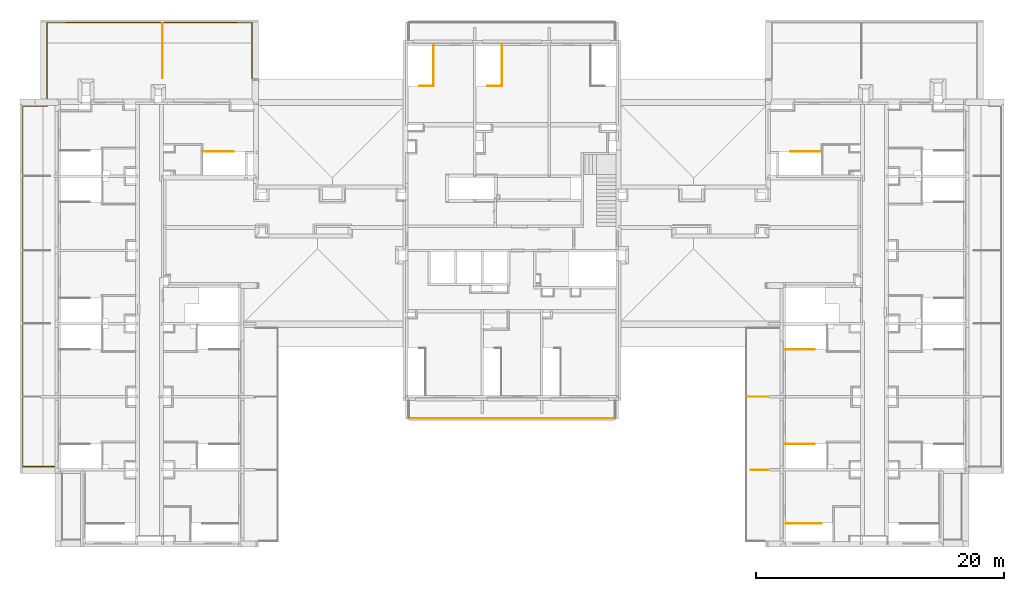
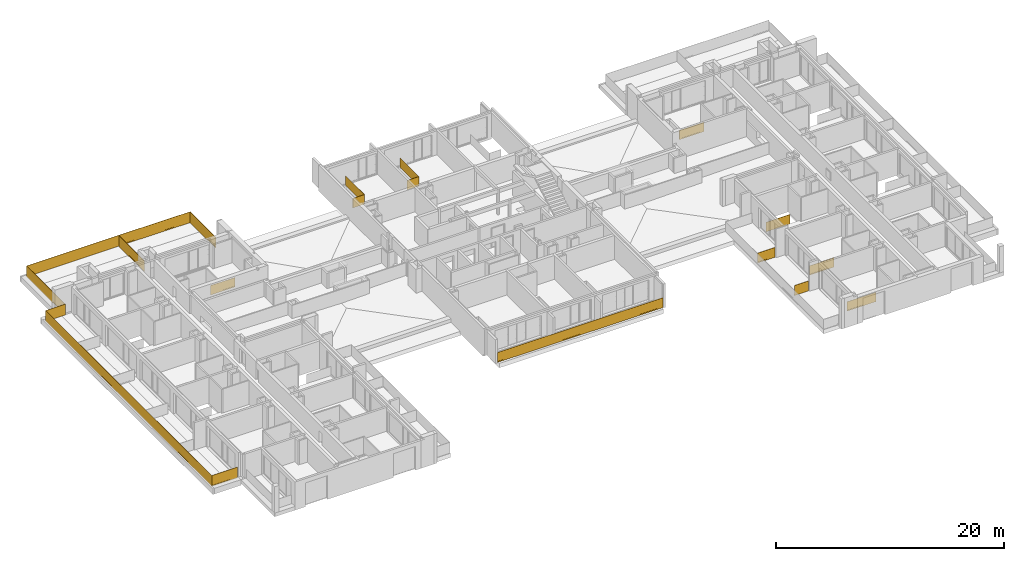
# One storey, part 9 of 30: 12 railings.
"""IFC2X3 building model written with IfcOpenShell, lengths in millimetres."""

from ifc_helpers import new_model, entity, si_unit, converted_unit, derived_unit, money_unit, direction, frame, origin_with_axes, place, context, subcontext, project, spatial, faceted_brep, material, material_list, type_object, element, save


model = new_model("IFC2X3")

# Units and contexts
model_context = context("Model", 3, precision=0.01, world=origin_with_axes(), true_north=direction((0.34421633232, 0.938890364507)))
body_context = subcontext(model_context, "Body", "Model", "MODEL_VIEW")
ifc_project = project(units=[si_unit("LENGTHUNIT", "METRE", prefix="MILLI"), si_unit("AREAUNIT", "SQUARE_METRE"), si_unit("VOLUMEUNIT", "CUBIC_METRE"), converted_unit("PLANEANGLEUNIT", "DEGREE", entity("IfcPlaneAngleMeasure", 0.0174532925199), si_unit("PLANEANGLEUNIT", "RADIAN"), dimensions=[0, 0, 0, 0, 0, 0, 0]), si_unit("SOLIDANGLEUNIT", "STERADIAN"), money_unit("USD"), converted_unit("TIMEUNIT", "Year", entity("IfcTimeMeasure", 31556926.0), si_unit("TIMEUNIT", "SECOND"), dimensions=[0, 0, 1, 0, 0, 0, 0]), si_unit("MASSUNIT", "GRAM", prefix="KILO"), si_unit("THERMODYNAMICTEMPERATUREUNIT", "DEGREE_CELSIUS"), si_unit("LUMINOUSINTENSITYUNIT", "LUMEN"), si_unit("ENERGYUNIT", "JOULE", prefix="MEGA"), derived_unit("THERMALCONDUCTANCEUNIT", [(si_unit("POWERUNIT", "WATT"), 1), (si_unit("LENGTHUNIT", "METRE"), -1), (si_unit("THERMODYNAMICTEMPERATUREUNIT", "KELVIN"), -1)]), derived_unit("SPECIFICHEATCAPACITYUNIT", [(si_unit("ENERGYUNIT", "JOULE"), 1), (si_unit("MASSUNIT", "GRAM", prefix="KILO"), -1), (si_unit("THERMODYNAMICTEMPERATUREUNIT", "KELVIN"), -1)]), derived_unit("MASSDENSITYUNIT", [(si_unit("MASSUNIT", "GRAM", prefix="KILO"), 1), (si_unit("VOLUMEUNIT", "CUBIC_METRE"), -1)])], contexts=[model_context])

# Site, building, storey
site_placement = place(None, origin_with_axes())
site = spatial("IfcSite", under=ifc_project, at=site_placement, Name="USTRONIE MORSKIE", CompositionType="ELEMENT")
building_placement = place(site_placement, origin_with_axes())
building = spatial("IfcBuilding", under=site, at=building_placement, Name="Budynek", CompositionType="ELEMENT")
storey_placement = place(building_placement, frame((0.0, 0.0, 16000.0), z_axis=(0.0, 0.0, 1.0), x_axis=(1.0, 0.0, 0.0)))
storey = spatial("IfcBuildingStorey", under=building, at=storey_placement, Name="ANTRESOLA - KOND. TECHNICZNA", CompositionType="ELEMENT", Elevation=16000.0)

# Railings
ifc_material_1 = material(Name="Szkło struktualne")
ifc_material_2 = material(Name="Profile aluminiowe")
ifc_material_list_1 = material_list([ifc_material_1, ifc_material_2])
railing_type = type_object("IfcRailingType", Name="Typ balustrady", PredefinedType="NOTDEFINED")
railing_1_placement = place(storey_placement, frame((408517.884527, 721001.199036, 200.0), z_axis=(0.0, 0.0, 1.0), x_axis=(1.0, 0.0, 0.0)))
element("IfcRailing", 1, at=railing_1_placement, inside=storey, type_object=railing_type, material=ifc_material_list_1, Name="BL1", PredefinedType="NOTDEFINED", context=body_context, shape_type="Brep", body=[
    faceted_brep([(-1750.0, -9.99999999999, -100.0), (0.0, -9.99999999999, -100.0), (0.0, -9.99999999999, 950.0), (-1750.0, -9.99999999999, 950.0), (0.0, 9.99999999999, -100.0), (-1750.0, 9.99999999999, -100.0), (0.0, 9.99999999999, 950.0), (-1750.0, 9.99999999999, 950.0)], [[[0, 1, 2, 3]], [[4, 1, 0, 5]], [[6, 2, 1, 4]], [[3, 2, 6, 7]], [[0, 3, 7, 5]], [[6, 4, 5, 7]]]),
    faceted_brep([(-1750.0, 15.0, -5.0), (0.0, 15.0, -5.0), (0.0, 15.0, -105.0), (-1750.0, 15.0, -105.0), (-1750.0, 9.99999999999, -5.0), (0.0, 9.99999999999, -5.0), (0.0, 9.99999999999, -100.0), (0.0, -9.99999999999, -100.0), (0.0, -9.99999999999, -5.0), (0.0, -15.0, -5.0), (0.0, -15.0, -105.0), (-1750.0, -15.0, -105.0), (-1750.0, -15.0, -5.0), (-1750.0, -9.99999999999, -5.0), (-1750.0, -9.99999999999, -100.0), (-1750.0, 9.99999999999, -100.0)], [[[0, 1, 2, 3]], [[1, 0, 4, 5]], [[6, 7, 8, 9, 10, 2, 1, 5]], [[10, 11, 3, 2]], [[11, 12, 13, 14, 15, 4, 0, 3]], [[15, 6, 5, 4]], [[7, 6, 15, 14]], [[8, 7, 14, 13]], [[9, 8, 13, 12]], [[11, 10, 9, 12]]]),
])
railing_2_placement = place(storey_placement, frame((379017.920919, 721142.989714, 200.0), z_axis=(0.0, 0.0, 1.0), x_axis=(1.0, 0.0, 0.0)))
element("IfcRailing", 2, at=railing_2_placement, inside=storey, type_object=railing_type, material=ifc_material_list_1, Name="BL1", PredefinedType="NOTDEFINED", context=body_context, shape_type="Brep", body=[
    faceted_brep([(17150.0, -1881.79067758, -100.0), (450.0, -1881.79067758, -100.0), (450.0, -1881.79067758, 950.0), (17150.0, -1881.79067758, 950.0), (450.0, -1901.79067758, -100.0), (17150.0, -1901.79067758, -100.0), (450.0, -1901.79067758, 950.0), (17150.0, -1901.79067758, 950.0)], [[[0, 1, 2, 3]], [[4, 1, 0, 5]], [[6, 2, 1, 4]], [[3, 2, 6, 7]], [[0, 3, 7, 5]], [[6, 4, 5, 7]]]),
    faceted_brep([(17150.0, -1906.79067758, -5.0), (450.0, -1906.79067758, -5.0), (450.0, -1906.79067758, -105.0), (17150.0, -1906.79067758, -105.0), (17150.0, -1901.79067758, -5.0), (450.0, -1901.79067758, -5.0), (450.0, -1901.79067758, -100.0), (450.0, -1881.79067758, -100.0), (450.0, -1881.79067758, -5.0), (450.0, -1876.79067758, -5.0), (450.0, -1876.79067758, -105.0), (17150.0, -1876.79067758, -105.0), (17150.0, -1876.79067758, -5.0), (17150.0, -1881.79067758, -5.0), (17150.0, -1881.79067758, -100.0), (17150.0, -1901.79067758, -100.0)], [[[0, 1, 2, 3]], [[1, 0, 4, 5]], [[6, 7, 8, 9, 10, 2, 1, 5]], [[10, 11, 3, 2]], [[11, 12, 13, 14, 15, 4, 0, 3]], [[15, 6, 5, 4]], [[7, 6, 15, 14]], [[8, 7, 14, 13]], [[9, 8, 13, 12]], [[11, 10, 9, 12]]]),
])
railing_3_placement = place(storey_placement, frame((409817.920919, 717201.199037, 100.0), z_axis=(0.0, 0.0, 1.0), x_axis=(1.0, 0.0, 0.0)))
element("IfcRailing", 3, at=railing_3_placement, inside=storey, type_object=railing_type, material=ifc_material_list_1, Name="BL1", PredefinedType="NOTDEFINED", context=body_context, shape_type="Brep", body=[
    faceted_brep([(2440.0, -9.99999999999, -50.0), (0.0, -9.99999999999, -50.0), (0.0, -9.99999999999, 950.0), (2440.0, -9.99999999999, 950.0), (0.0, -30.0, -50.0), (2440.0, -30.0, -50.0), (0.0, -30.0, 950.0), (2440.0, -30.0, 950.0)], [[[0, 1, 2, 3]], [[4, 1, 0, 5]], [[6, 2, 1, 4]], [[3, 2, 6, 7]], [[0, 3, 7, 5]], [[6, 4, 5, 7]]]),
    faceted_brep([(2440.0, -35.0, 45.0), (0.0, -35.0, 45.0), (0.0, -35.0, -55.0), (2440.0, -35.0, -55.0), (2440.0, -30.0, 45.0), (0.0, -30.0, 45.0), (0.0, -30.0, -50.0), (0.0, -9.99999999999, -50.0), (0.0, -9.99999999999, 45.0), (0.0, -5.0, 45.0), (0.0, -5.0, -55.0), (2440.0, -5.0, -55.0), (2440.0, -5.0, 45.0), (2440.0, -9.99999999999, 45.0), (2440.0, -9.99999999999, -50.0), (2440.0, -30.0, -50.0)], [[[0, 1, 2, 3]], [[1, 0, 4, 5]], [[6, 7, 8, 9, 10, 2, 1, 5]], [[10, 11, 3, 2]], [[11, 12, 13, 14, 15, 4, 0, 3]], [[15, 6, 5, 4]], [[7, 6, 15, 14]], [[8, 7, 14, 13]], [[9, 8, 13, 12]], [[11, 10, 9, 12]]]),
])
railing_4_placement = place(storey_placement, frame((409887.920919, 710801.199065, 100.0), z_axis=(0.0, 0.0, 1.0), x_axis=(0.0, 1.0, 0.0)))
element("IfcRailing", 4, at=railing_4_placement, inside=storey, type_object=railing_type, material=ifc_material_list_1, Name="BL1", PredefinedType="NOTDEFINED", context=body_context, shape_type="Brep", body=[
    faceted_brep([(-9.99999999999, -2930.0, -50.0), (-10.0000000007, 0.0, -50.0), (-10.0000000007, 0.0, 950.0), (-9.99999999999, -2930.0, 950.0), (-30.0000000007, 0.0, -50.0), (-30.0, -2930.0, -50.0), (-30.0000000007, 0.0, 950.0), (-30.0, -2930.0, 950.0)], [[[0, 1, 2, 3]], [[4, 1, 0, 5]], [[6, 2, 1, 4]], [[3, 2, 6, 7]], [[0, 3, 7, 5]], [[6, 4, 5, 7]]]),
    faceted_brep([(-35.0, -2930.0, 45.0), (-35.0000000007, 0.0, 45.0), (-35.0000000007, 0.0, -55.0), (-35.0, -2930.0, -55.0), (-30.0, -2930.0, 45.0), (-30.0000000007, 0.0, 45.0), (-30.0000000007, 0.0, -50.0), (-10.0000000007, 0.0, -50.0), (-10.0000000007, 0.0, 45.0), (-5.00000000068, 0.0, 45.0), (-5.00000000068, 0.0, -55.0), (-5.0, -2930.0, -55.0), (-5.0, -2930.0, 45.0), (-9.99999999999, -2930.0, 45.0), (-9.99999999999, -2930.0, -50.0), (-30.0, -2930.0, -50.0)], [[[0, 1, 2, 3]], [[1, 0, 4, 5]], [[6, 7, 8, 9, 10, 2, 1, 5]], [[10, 11, 3, 2]], [[11, 12, 13, 14, 15, 4, 0, 3]], [[15, 6, 5, 4]], [[7, 6, 15, 14]], [[8, 7, 14, 13]], [[9, 8, 13, 12]], [[11, 10, 9, 12]]]),
])
ifc_material_list_2 = material_list([ifc_material_1, ifc_material_2, ifc_material_1, ifc_material_2, ifc_material_1, ifc_material_2, ifc_material_1, ifc_material_2, ifc_material_1, ifc_material_2, ifc_material_1, ifc_material_2, ifc_material_1, ifc_material_2])
railing_5_placement = place(storey_placement, frame((357617.920919, 709026.409919, 200.0), z_axis=(0.0, 0.0, 1.0), x_axis=(1.0, 0.0, 0.0)))
element("IfcRailing", 5, at=railing_5_placement, inside=storey, type_object=railing_type, material=ifc_material_list_2, Name="BL1", PredefinedType="NOTDEFINED", context=body_context, shape_type="Brep", body=[
    faceted_brep([(-6679.99996482, 6324.78911709, -100.00000039), (-6679.99996482, 6324.78911709, 1049.99999998), (-9289.999818, 6324.78911709, 1049.99999998), (-9289.999818, 6324.78911709, -100.00000039), (-6679.99996482, 6344.78911664, 1049.99999998), (-6679.99996482, 6344.78911664, -100.00000039), (-9269.99981845, 6344.78911664, 1049.99999998), (-9269.99981845, 6344.78911664, -100.00000039)], [[[0, 1, 2, 3]], [[4, 1, 0, 5]], [[2, 1, 4, 6]], [[3, 2, 6, 7]], [[5, 0, 3, 7]], [[6, 4, 5, 7]]]),
    faceted_brep([(-9279.99981809, 6349.78911687, -5.0), (-6679.99996521, 6349.78911687, -5.0), (-6679.99996521, 6349.78911687, -105.0), (-9279.99981809, 6349.78911687, -105.0), (-9279.99981809, 6344.78911687, -5.0), (-6679.99996521, 6344.78911687, -5.0), (-6679.99996521, 6324.78911687, -100.0), (-6679.99996521, 6324.78911687, -5.0), (-6679.99996521, 6319.78911687, -5.0), (-6679.99996521, 6319.78911687, -105.0), (-6679.99996521, 6344.78911687, -100.0), (-9279.99981809, 6319.78911687, -105.0), (-9279.99981809, 6319.78911687, -5.0), (-9279.99981809, 6324.78911687, -5.0), (-9279.99981809, 6324.78911687, -100.0), (-9279.99981809, 6344.78911687, -100.0)], [[[0, 1, 2, 3]], [[1, 0, 4, 5]], [[6, 7, 8, 9, 2, 1, 5, 10]], [[9, 11, 3, 2]], [[11, 12, 13, 14, 15, 4, 0, 3]], [[15, 10, 5, 4]], [[7, 6, 14, 13]], [[8, 7, 13, 12]], [[11, 9, 8, 12]], [[6, 10, 15, 14]]]),
    faceted_brep([(-9289.99981786, 6324.7891167, -100.00000039), (-9289.99981786, 6324.7891167, 1049.99999998), (-9289.99981786, 35424.7891163, 1049.99999998), (-9289.99981786, 35424.7891163, -100.00000039), (-9269.99981831, 6344.78911625, 1049.99999998), (-9269.99981831, 6344.78911625, -100.00000039), (-9269.99981831, 35404.7891168, 1049.99999998), (-9269.99981831, 35404.7891168, -100.00000039)], [[[0, 1, 2, 3]], [[4, 1, 0, 5]], [[2, 1, 4, 6]], [[3, 2, 6, 7]], [[5, 0, 3, 7]], [[6, 4, 5, 7]]]),
    faceted_brep([(-9264.99981809, 35414.7891169, -5.0), (-9264.99981809, 6334.78911687, -5.0), (-9264.99981809, 6334.78911687, -105.0), (-9264.99981809, 35414.7891169, -105.0), (-9269.99981809, 35414.7891169, -5.0), (-9269.99981809, 6334.78911687, -5.0), (-9269.99981809, 6334.78911687, -100.0), (-9289.99981809, 6334.78911687, -100.0), (-9289.99981809, 6334.78911687, -5.0), (-9294.99981809, 6334.78911687, -5.0), (-9294.99981809, 6334.78911687, -105.0), (-9294.99981809, 35414.7891169, -105.0), (-9294.99981809, 35414.7891169, -5.0), (-9289.99981809, 35414.7891169, -5.0), (-9289.99981809, 35414.7891169, -100.0), (-9269.99981809, 35414.7891169, -100.0)], [[[0, 1, 2, 3]], [[1, 0, 4, 5]], [[6, 7, 8, 9, 10, 2, 1, 5]], [[10, 11, 3, 2]], [[11, 12, 13, 14, 15, 4, 0, 3]], [[15, 6, 5, 4]], [[7, 6, 15, 14]], [[8, 7, 14, 13]], [[9, 8, 13, 12]], [[11, 10, 9, 12]]]),
    faceted_brep([(-9289.99981825, 35424.7891166, -100.00000039), (-9289.99981825, 35424.7891166, 1049.99999998), (-7320.00000012, 35424.7891166, 1049.99999998), (-7320.00000012, 35424.7891166, -100.00000039), (-9269.9998187, 35404.7891171, 1049.99999998), (-9269.9998187, 35404.7891171, -100.00000039), (-7300.00000057, 35404.7891171, 1049.99999998), (-7300.00000057, 35404.7891171, -100.00000039)], [[[0, 1, 2, 3]], [[4, 1, 0, 5]], [[2, 1, 4, 6]], [[3, 2, 6, 7]], [[5, 0, 3, 7]], [[6, 4, 5, 7]]]),
    faceted_brep([(-7310.0, 35399.7891169, -5.0), (-9279.99981809, 35399.7891169, -5.0), (-9279.99981809, 35399.7891169, -105.0), (-7310.0, 35399.7891169, -105.0), (-7310.0, 35404.7891169, -5.0), (-9279.99981809, 35404.7891169, -5.0), (-9279.99981809, 35404.7891169, -100.0), (-9279.99981809, 35424.7891169, -100.0), (-9279.99981809, 35424.7891169, -5.0), (-9279.99981809, 35429.7891169, -5.0), (-9279.99981809, 35429.7891169, -105.0), (-7310.0, 35429.7891169, -105.0), (-7310.0, 35429.7891169, -5.0), (-7310.0, 35424.7891169, -5.0), (-7310.0, 35424.7891169, -100.0), (-7310.0, 35404.7891169, -100.0)], [[[0, 1, 2, 3]], [[1, 0, 4, 5]], [[6, 7, 8, 9, 10, 2, 1, 5]], [[10, 11, 3, 2]], [[11, 12, 13, 14, 15, 4, 0, 3]], [[15, 6, 5, 4]], [[7, 6, 15, 14]], [[8, 7, 14, 13]], [[9, 8, 13, 12]], [[11, 10, 9, 12]]]),
    faceted_brep([(-7319.99999978, 35424.7891163, -100.00000039), (-7319.99999978, 35424.7891163, 1049.99999998), (-7319.99999978, 42164.8780579, 1049.99999998), (-7319.99999978, 42164.8780579, -100.00000039), (-7300.00000022, 35404.7891167, 1049.99999998), (-7300.00000022, 35404.7891167, -100.00000039), (-7300.00000022, 42144.9212025, 1049.99999998), (-7300.00000022, 42144.9212025, -100.00000039)], [[[0, 1, 2, 3]], [[4, 1, 0, 5]], [[2, 1, 4, 6]], [[3, 2, 6, 7]], [[5, 0, 3, 7]], [[6, 4, 5, 7]]]),
    faceted_brep([(-7295.0, 42154.8996298, -5.0), (-7295.0, 35414.7891169, -5.0), (-7295.0, 35414.7891169, -105.0), (-7295.0, 42154.8996298, -105.0), (-7300.0, 42154.8996298, -5.0), (-7300.0, 35414.7891169, -5.0), (-7300.0, 35414.7891169, -100.0), (-7320.0, 35414.7891169, -100.0), (-7320.0, 35414.7891169, -5.0), (-7325.0, 35414.7891169, -5.0), (-7325.0, 35414.7891169, -105.0), (-7325.0, 42154.8996298, -105.0), (-7325.0, 42154.8996298, -5.0), (-7320.0, 42154.8996298, -5.0), (-7320.0, 42154.8996298, -100.0), (-7300.0, 42154.8996298, -100.0)], [[[0, 1, 2, 3]], [[1, 0, 4, 5]], [[6, 7, 8, 9, 10, 2, 1, 5]], [[10, 11, 3, 2]], [[11, 12, 13, 14, 15, 4, 0, 3]], [[15, 6, 5, 4]], [[7, 6, 15, 14]], [[8, 7, 14, 13]], [[9, 8, 13, 12]], [[11, 10, 9, 12]]]),
    faceted_brep([(-7320.00000017, 42164.8780575, -100.00000039), (-7320.00000017, 42164.8780575, 1049.99999998), (1899.98885018, 42184.7889993, 1049.99999998), (1899.98885018, 42184.7889993, -100.00000039), (-7300.00000061, 42144.9212021, 1049.99999998), (-7300.00000061, 42144.9212021, -100.00000039), (1899.98327529, 42164.7889411, 1049.99999998), (1899.98327529, 42164.7889411, -100.00000039)], [[[0, 1, 2, 3]], [[4, 1, 0, 5]], [[2, 1, 4, 6]], [[3, 2, 6, 7]], [[5, 0, 3, 7]], [[6, 4, 5, 7]]]),
    faceted_brep([(1900.01845584, 42159.7890052, -5.0), (-7309.96760696, 42139.8996648, -5.0), (-7309.96760696, 42139.8996648, -105.0), (1900.01845584, 42159.7890052, -105.0), (1900.00765816, 42164.7889935, -5.0), (-7309.97840464, 42144.8996531, -5.0), (-7309.97840464, 42144.8996531, -100.0), (-7310.02159536, 42164.8996065, -100.0), (-7310.02159536, 42164.8996065, -5.0), (-7310.03239304, 42169.8995948, -5.0), (-7310.03239304, 42169.8995948, -105.0), (1899.95366977, 42189.7889352, -105.0), (1899.95366977, 42189.7889352, -5.0), (1899.96446745, 42184.7889469, -5.0), (1899.96446745, 42184.7889469, -100.0), (1900.00765816, 42164.7889935, -100.0)], [[[0, 1, 2, 3]], [[1, 0, 4, 5]], [[6, 7, 8, 9, 10, 2, 1, 5]], [[10, 11, 3, 2]], [[11, 12, 13, 14, 15, 4, 0, 3]], [[15, 6, 5, 4]], [[7, 6, 15, 14]], [[8, 7, 14, 13]], [[9, 8, 13, 12]], [[11, 10, 9, 12]]]),
    faceted_brep([(1899.98884986, 42184.7889993, -100.00000039), (1899.98884986, 42184.7889993, 1049.99999998), (9220.00000008, 42164.9003027, 1049.99999998), (9220.00000008, 42164.9003027, -100.00000039), (1899.98327497, 42164.7889411, 1049.99999998), (1899.98327497, 42164.7889411, -100.00000039), (9200.00000053, 42144.95457, 1049.99999998), (9200.00000053, 42144.95457, -100.00000039)], [[[0, 1, 2, 3]], [[4, 1, 0, 5]], [[2, 1, 4, 6]], [[3, 2, 6, 7]], [[5, 0, 3, 7]], [[6, 4, 5, 7]]]),
    faceted_brep([(9209.95924469, 42139.9274917, -5.0), (1899.94530749, 42159.7890255, -5.0), (1899.94530749, 42159.7890255, -105.0), (9209.95924469, 42139.9274917, -105.0), (9209.97282979, 42144.9274733, -5.0), (1899.9588926, 42164.7890071, -5.0), (1899.9588926, 42164.7890071, -100.0), (1900.01323302, 42184.7889333, -100.0), (1900.01323302, 42184.7889333, -5.0), (1900.02681812, 42189.7889148, -5.0), (1900.02681812, 42189.7889148, -105.0), (9210.04075531, 42169.927381, -105.0), (9210.04075531, 42169.927381, -5.0), (9210.02717021, 42164.9273994, -5.0), (9210.02717021, 42164.9273994, -100.0), (9209.97282979, 42144.9274733, -100.0)], [[[0, 1, 2, 3]], [[1, 0, 4, 5]], [[6, 7, 8, 9, 10, 2, 1, 5]], [[10, 11, 3, 2]], [[11, 12, 13, 14, 15, 4, 0, 3]], [[15, 6, 5, 4]], [[7, 6, 15, 14]], [[8, 7, 14, 13]], [[9, 8, 13, 12]], [[11, 10, 9, 12]]]),
    faceted_brep([(9219.99999978, 42164.9003031, -100.00000039), (9219.99999978, 42164.9003031, 1049.99999998), (9219.99999978, 37624.7891165, 1049.99999998), (9219.99999978, 37624.7891165, -100.00000039), (9200.00000022, 42144.9545704, 1049.99999998), (9200.00000022, 42144.9545704, -100.00000039), (9200.00000022, 37624.7891165, 1049.99999998), (9200.00000022, 37624.7891165, -100.00000039)], [[[0, 1, 2, 3]], [[4, 1, 0, 5]], [[2, 1, 4, 6]], [[3, 2, 6, 7]], [[5, 0, 3, 7]], [[6, 4, 5, 7]]]),
    faceted_brep([(9195.0, 37624.7891169, -5.0), (9195.0, 42154.9274364, -5.0), (9195.0, 42154.9274364, -105.0), (9195.0, 37624.7891169, -105.0), (9200.0, 37624.7891169, -5.0), (9200.0, 42154.9274364, -5.0), (9200.0, 42154.9274364, -100.0), (9220.0, 42154.9274364, -100.0), (9220.0, 42154.9274364, -5.0), (9225.0, 42154.9274364, -5.0), (9225.0, 42154.9274364, -105.0), (9225.0, 37624.7891169, -105.0), (9225.0, 37624.7891169, -5.0), (9220.0, 37624.7891169, -5.0), (9220.0, 37624.7891169, -100.0), (9200.0, 37624.7891169, -100.0)], [[[0, 1, 2, 3]], [[1, 0, 4, 5]], [[6, 7, 8, 9, 10, 2, 1, 5]], [[10, 11, 3, 2]], [[11, 12, 13, 14, 15, 4, 0, 3]], [[15, 6, 5, 4]], [[7, 6, 15, 14]], [[8, 7, 14, 13]], [[9, 8, 13, 12]], [[11, 10, 9, 12]]]),
])
railing_6_placement = place(storey_placement, frame((409817.920919, 724801.243277, 100.0), z_axis=(0.0, 0.0, 1.0), x_axis=(1.0, 0.0, 0.0)))
element("IfcRailing", 6, at=railing_6_placement, inside=storey, type_object=railing_type, material=ifc_material_list_1, Name="BL1", PredefinedType="NOTDEFINED", context=body_context, shape_type="Brep", body=[
    faceted_brep([(2440.0, 30.0, -50.0), (0.0, 30.0, -50.0), (0.0, 30.0, 950.0), (2440.0, 30.0, 950.0), (0.0, 9.99999999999, -50.0), (2440.0, 9.99999999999, -50.0), (0.0, 9.99999999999, 950.0), (2440.0, 9.99999999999, 950.0)], [[[0, 1, 2, 3]], [[4, 1, 0, 5]], [[6, 2, 1, 4]], [[3, 2, 6, 7]], [[0, 3, 7, 5]], [[6, 4, 5, 7]]]),
    faceted_brep([(2440.0, 5.0, 45.0), (0.0, 5.0, 45.0), (0.0, 5.0, -55.0), (2440.0, 5.0, -55.0), (2440.0, 9.99999999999, 45.0), (0.0, 9.99999999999, 45.0), (0.0, 9.99999999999, -50.0), (0.0, 30.0, -50.0), (0.0, 30.0, 45.0), (0.0, 35.0, 45.0), (0.0, 35.0, -55.0), (2440.0, 35.0, -55.0), (2440.0, 35.0, 45.0), (2440.0, 30.0, 45.0), (2440.0, 30.0, -50.0), (2440.0, 9.99999999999, -50.0)], [[[0, 1, 2, 3]], [[1, 0, 4, 5]], [[6, 7, 8, 9, 10, 2, 1, 5]], [[10, 11, 3, 2]], [[11, 12, 13, 14, 15, 4, 0, 3]], [[15, 6, 5, 4]], [[7, 6, 15, 14]], [[8, 7, 14, 13]], [[9, 8, 13, 12]], [[11, 10, 9, 12]]]),
])
railing_7_placement = place(storey_placement, frame((410847.920964, 740801.179476, 100.0), z_axis=(0.0, 0.0, 1.0), x_axis=(-1.0, 0.0, 0.0)))
element("IfcRailing", 7, at=railing_7_placement, inside=storey, type_object=railing_type, material=ifc_material_list_1, Name="BL1", PredefinedType="NOTDEFINED", context=body_context, shape_type="Brep", body=[
    faceted_brep([(-1920.0, 9.99999999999, -50.0), (580.0, 9.99999999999, -50.0), (580.0, 9.99999999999, 950.0), (-1920.0, 9.99999999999, 950.0), (580.0, 30.0, -50.0), (-1920.0, 30.0, -50.0), (580.0, 30.0, 950.0), (-1920.0, 30.0, 950.0)], [[[0, 1, 2, 3]], [[4, 1, 0, 5]], [[6, 2, 1, 4]], [[3, 2, 6, 7]], [[0, 3, 7, 5]], [[6, 4, 5, 7]]]),
    faceted_brep([(-1920.0, 35.0, 45.0), (580.0, 35.0, 45.0), (580.0, 35.0, -55.0), (-1920.0, 35.0, -55.0), (-1920.0, 30.0, 45.0), (580.0, 30.0, 45.0), (580.0, 30.0, -50.0), (580.0, 9.99999999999, -50.0), (580.0, 9.99999999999, 45.0), (580.0, 5.0, 45.0), (580.0, 5.0, -55.0), (-1920.0, 5.0, -55.0), (-1920.0, 5.0, 45.0), (-1920.0, 9.99999999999, 45.0), (-1920.0, 9.99999999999, -50.0), (-1920.0, 30.0, -50.0)], [[[0, 1, 2, 3]], [[1, 0, 4, 5]], [[6, 7, 8, 9, 10, 2, 1, 5]], [[10, 11, 3, 2]], [[11, 12, 13, 14, 15, 4, 0, 3]], [[15, 6, 5, 4]], [[7, 6, 15, 14]], [[8, 7, 14, 13]], [[9, 8, 13, 12]], [[11, 10, 9, 12]]]),
])
railing_8_placement = place(storey_placement, frame((408517.884527, 715101.199036, 200.0), z_axis=(0.0, 0.0, 1.0), x_axis=(1.0, 0.0, 0.0)))
element("IfcRailing", 8, at=railing_8_placement, inside=storey, type_object=railing_type, material=ifc_material_list_1, Name="BL1", PredefinedType="NOTDEFINED", context=body_context, shape_type="Brep", body=[
    faceted_brep([(-1450.0, -9.99999999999, -100.0), (0.0, -9.99999999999, -100.0), (0.0, -9.99999999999, 950.0), (-1450.0, -9.99999999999, 950.0), (0.0, 9.99999999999, -100.0), (-1450.0, 9.99999999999, -100.0), (0.0, 9.99999999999, 950.0), (-1450.0, 9.99999999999, 950.0)], [[[0, 1, 2, 3]], [[4, 1, 0, 5]], [[6, 2, 1, 4]], [[3, 2, 6, 7]], [[0, 3, 7, 5]], [[6, 4, 5, 7]]]),
    faceted_brep([(-1450.0, 15.0, -5.0), (0.0, 15.0, -5.0), (0.0, 15.0, -105.0), (-1450.0, 15.0, -105.0), (-1450.0, 9.99999999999, -5.0), (0.0, 9.99999999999, -5.0), (0.0, 9.99999999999, -100.0), (0.0, -9.99999999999, -100.0), (0.0, -9.99999999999, -5.0), (0.0, -15.0, -5.0), (0.0, -15.0, -105.0), (-1450.0, -15.0, -105.0), (-1450.0, -15.0, -5.0), (-1450.0, -9.99999999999, -5.0), (-1450.0, -9.99999999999, -100.0), (-1450.0, 9.99999999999, -100.0)], [[[0, 1, 2, 3]], [[1, 0, 4, 5]], [[6, 7, 8, 9, 10, 2, 1, 5]], [[10, 11, 3, 2]], [[11, 12, 13, 14, 15, 4, 0, 3]], [[15, 6, 5, 4]], [[7, 6, 15, 14]], [[8, 7, 14, 13]], [[9, 8, 13, 12]], [[11, 10, 9, 12]]]),
])
ifc_material_list_3 = material_list([ifc_material_1, ifc_material_2, ifc_material_1, ifc_material_2])
railing_9_placement = place(storey_placement, frame((390217.921026, 746051.198965, 100.0), z_axis=(0.0, 0.0, 1.0), x_axis=(1.0, 0.0, 0.0)))
element("IfcRailing", 9, at=railing_9_placement, inside=storey, type_object=railing_type, material=ifc_material_list_3, Name="BL1", PredefinedType="NOTDEFINED", context=body_context, shape_type="Brep", body=[
    faceted_brep([(-3210.00010751, 3300.00007192, -50.0000003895), (-3210.00010751, 3300.00007192, 949.99999961), (-3210.00010751, 10.0000718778, 949.99999961), (-3210.00010751, 10.0000718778, -50.0000003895), (-3230.00010706, 3300.00007192, 949.99999961), (-3230.00010706, 3300.00007192, -50.0000003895), (-3230.00010706, 30.0000714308, 949.99999961), (-3230.00010706, 30.0000714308, -50.0000003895)], [[[0, 1, 2, 3]], [[4, 1, 0, 5]], [[2, 1, 4, 6]], [[3, 2, 6, 7]], [[5, 0, 3, 7]], [[6, 4, 5, 7]]]),
    faceted_brep([(-3235.00010729, 20.0000715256, 45.0), (-3235.00010729, 3300.00007153, 45.0), (-3235.00010729, 3300.00007153, -55.0), (-3235.00010729, 20.0000715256, -55.0), (-3230.00010729, 20.0000715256, 45.0), (-3230.00010729, 3300.00007153, 45.0), (-3230.00010729, 3300.00007153, -50.0), (-3210.00010729, 3300.00007153, -50.0), (-3210.00010729, 3300.00007153, 45.0), (-3205.00010729, 3300.00007153, 45.0), (-3205.00010729, 3300.00007153, -55.0), (-3205.00010729, 20.0000715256, -55.0), (-3205.00010729, 20.0000715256, 45.0), (-3210.00010729, 20.0000715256, 45.0), (-3210.00010729, 20.0000715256, -50.0), (-3230.00010729, 20.0000715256, -50.0)], [[[0, 1, 2, 3]], [[1, 0, 4, 5]], [[6, 7, 8, 9, 10, 2, 1, 5]], [[10, 11, 3, 2]], [[11, 12, 13, 14, 15, 4, 0, 3]], [[15, 6, 5, 4]], [[7, 6, 15, 14]], [[8, 7, 14, 13]], [[9, 8, 13, 12]], [[11, 10, 9, 12]]]),
    faceted_brep([(-3210.00010712, 10.0000717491, -50.0000003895), (-3210.00010712, 10.0000717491, 949.99999961), (-4400.00010753, 10.0000717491, 949.99999961), (-4400.00010753, 10.0000717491, -50.0000003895), (-3230.00010668, 30.0000713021, 949.99999961), (-3230.00010668, 30.0000713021, -50.0000003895), (-4400.00010753, 30.0000713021, 949.99999961), (-4400.00010753, 30.0000713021, -50.0000003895)], [[[0, 1, 2, 3]], [[4, 1, 0, 5]], [[2, 1, 4, 6]], [[3, 2, 6, 7]], [[5, 0, 3, 7]], [[6, 4, 5, 7]]]),
    faceted_brep([(-4400.00010729, 35.0000715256, 45.0), (-3220.00010729, 35.0000715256, 45.0), (-3220.00010729, 35.0000715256, -55.0), (-4400.00010729, 35.0000715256, -55.0), (-4400.00010729, 30.0000715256, 45.0), (-3220.00010729, 30.0000715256, 45.0), (-3220.00010729, 30.0000715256, -50.0), (-3220.00010729, 10.0000715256, -50.0), (-3220.00010729, 10.0000715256, 45.0), (-3220.00010729, 5.00007152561, 45.0), (-3220.00010729, 5.00007152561, -55.0), (-4400.00010729, 5.00007152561, -55.0), (-4400.00010729, 5.00007152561, 45.0), (-4400.00010729, 10.0000715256, 45.0), (-4400.00010729, 10.0000715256, -50.0), (-4400.00010729, 30.0000715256, -50.0)], [[[0, 1, 2, 3]], [[1, 0, 4, 5]], [[6, 7, 8, 9, 10, 2, 1, 5]], [[10, 11, 3, 2]], [[11, 12, 13, 14, 15, 4, 0, 3]], [[15, 6, 5, 4]], [[7, 6, 15, 14]], [[8, 7, 14, 13]], [[9, 8, 13, 12]], [[11, 10, 9, 12]]]),
])
railing_10_placement = place(storey_placement, frame((359617.920919, 746651.199036, 200.0), z_axis=(0.0, 0.0, 1.0), x_axis=(1.0, 0.0, 0.0)))
element("IfcRailing", 10, at=railing_10_placement, inside=storey, type_object=railing_type, material=ifc_material_list_1, Name="BL1", PredefinedType="NOTDEFINED", context=body_context, shape_type="Brep", body=[
    faceted_brep([(-9.99999999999, 4500.0, -100.0), (-9.99999999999, 50.0, -100.0), (-9.99999999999, 50.0, 1050.0), (-9.99999999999, 4500.0, 1050.0), (9.99999999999, 50.0, -100.0), (9.99999999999, 4500.0, -100.0), (9.99999999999, 50.0, 1050.0), (9.99999999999, 4500.0, 1050.0)], [[[0, 1, 2, 3]], [[4, 1, 0, 5]], [[6, 2, 1, 4]], [[3, 2, 6, 7]], [[0, 3, 7, 5]], [[6, 4, 5, 7]]]),
    faceted_brep([(15.0, 4500.0, -5.0), (15.0, 50.0, -5.0), (15.0, 50.0, -105.0), (15.0, 4500.0, -105.0), (9.99999999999, 4500.0, -5.0), (9.99999999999, 50.0, -5.0), (9.99999999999, 50.0, -100.0), (-9.99999999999, 50.0, -100.0), (-9.99999999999, 50.0, -5.0), (-15.0, 50.0, -5.0), (-15.0, 50.0, -105.0), (-15.0, 4500.0, -105.0), (-15.0, 4500.0, -5.0), (-9.99999999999, 4500.0, -5.0), (-9.99999999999, 4500.0, -100.0), (9.99999999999, 4500.0, -100.0)], [[[0, 1, 2, 3]], [[1, 0, 4, 5]], [[6, 7, 8, 9, 10, 2, 1, 5]], [[10, 11, 3, 2]], [[11, 12, 13, 14, 15, 4, 0, 3]], [[15, 6, 5, 4]], [[7, 6, 15, 14]], [[8, 7, 14, 13]], [[9, 8, 13, 12]], [[11, 10, 9, 12]]]),
])
railing_11_placement = place(storey_placement, frame((384717.921026, 746051.198965, 100.0), z_axis=(0.0, 0.0, 1.0), x_axis=(1.0, 0.0, 0.0)))
element("IfcRailing", 11, at=railing_11_placement, inside=storey, type_object=railing_type, material=ifc_material_list_3, Name="BL1", PredefinedType="NOTDEFINED", context=body_context, shape_type="Brep", body=[
    faceted_brep([(-3210.00010751, 3300.00007192, -50.0000003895), (-3210.00010751, 3300.00007192, 949.99999961), (-3210.00010751, 10.0000718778, 949.99999961), (-3210.00010751, 10.0000718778, -50.0000003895), (-3230.00010706, 3300.00007192, 949.99999961), (-3230.00010706, 3300.00007192, -50.0000003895), (-3230.00010706, 30.0000714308, 949.99999961), (-3230.00010706, 30.0000714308, -50.0000003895)], [[[0, 1, 2, 3]], [[4, 1, 0, 5]], [[2, 1, 4, 6]], [[3, 2, 6, 7]], [[5, 0, 3, 7]], [[6, 4, 5, 7]]]),
    faceted_brep([(-3235.00010729, 20.0000715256, 45.0), (-3235.00010729, 3300.00007153, 45.0), (-3235.00010729, 3300.00007153, -55.0), (-3235.00010729, 20.0000715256, -55.0), (-3230.00010729, 20.0000715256, 45.0), (-3230.00010729, 3300.00007153, 45.0), (-3230.00010729, 3300.00007153, -50.0), (-3210.00010729, 3300.00007153, -50.0), (-3210.00010729, 3300.00007153, 45.0), (-3205.00010729, 3300.00007153, 45.0), (-3205.00010729, 3300.00007153, -55.0), (-3205.00010729, 20.0000715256, -55.0), (-3205.00010729, 20.0000715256, 45.0), (-3210.00010729, 20.0000715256, 45.0), (-3210.00010729, 20.0000715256, -50.0), (-3230.00010729, 20.0000715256, -50.0)], [[[0, 1, 2, 3]], [[1, 0, 4, 5]], [[6, 7, 8, 9, 10, 2, 1, 5]], [[10, 11, 3, 2]], [[11, 12, 13, 14, 15, 4, 0, 3]], [[15, 6, 5, 4]], [[7, 6, 15, 14]], [[8, 7, 14, 13]], [[9, 8, 13, 12]], [[11, 10, 9, 12]]]),
    faceted_brep([(-3210.00010712, 10.0000717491, -50.0000003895), (-3210.00010712, 10.0000717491, 949.99999961), (-4400.00010753, 10.0000717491, 949.99999961), (-4400.00010753, 10.0000717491, -50.0000003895), (-3230.00010668, 30.0000713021, 949.99999961), (-3230.00010668, 30.0000713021, -50.0000003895), (-4400.00010753, 30.0000713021, 949.99999961), (-4400.00010753, 30.0000713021, -50.0000003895)], [[[0, 1, 2, 3]], [[4, 1, 0, 5]], [[2, 1, 4, 6]], [[3, 2, 6, 7]], [[5, 0, 3, 7]], [[6, 4, 5, 7]]]),
    faceted_brep([(-4400.00010729, 35.0000715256, 45.0), (-3220.00010729, 35.0000715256, 45.0), (-3220.00010729, 35.0000715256, -55.0), (-4400.00010729, 35.0000715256, -55.0), (-4400.00010729, 30.0000715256, 45.0), (-3220.00010729, 30.0000715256, 45.0), (-3220.00010729, 30.0000715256, -50.0), (-3220.00010729, 10.0000715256, -50.0), (-3220.00010729, 10.0000715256, 45.0), (-3220.00010729, 5.00007152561, 45.0), (-3220.00010729, 5.00007152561, -55.0), (-4400.00010729, 5.00007152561, -55.0), (-4400.00010729, 5.00007152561, 45.0), (-4400.00010729, 10.0000715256, 45.0), (-4400.00010729, 10.0000715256, -50.0), (-4400.00010729, 30.0000715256, -50.0)], [[[0, 1, 2, 3]], [[1, 0, 4, 5]], [[6, 7, 8, 9, 10, 2, 1, 5]], [[10, 11, 3, 2]], [[11, 12, 13, 14, 15, 4, 0, 3]], [[15, 6, 5, 4]], [[7, 6, 15, 14]], [[8, 7, 14, 13]], [[9, 8, 13, 12]], [[11, 10, 9, 12]]]),
])
railing_12_placement = place(storey_placement, frame((364787.920874, 740801.179476, 100.0), z_axis=(0.0, 0.0, 1.0), x_axis=(1.0, 0.0, 0.0)))
element("IfcRailing", 12, at=railing_12_placement, inside=storey, type_object=railing_type, material=ifc_material_list_1, Name="BL1", PredefinedType="NOTDEFINED", context=body_context, shape_type="Brep", body=[
    faceted_brep([(-1920.0, -30.0, -50.0), (580.0, -30.0, -50.0), (580.0, -30.0, 950.0), (-1920.0, -30.0, 950.0), (580.0, -9.99999999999, -50.0), (-1920.0, -9.99999999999, -50.0), (580.0, -9.99999999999, 950.0), (-1920.0, -9.99999999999, 950.0)], [[[0, 1, 2, 3]], [[4, 1, 0, 5]], [[6, 2, 1, 4]], [[3, 2, 6, 7]], [[0, 3, 7, 5]], [[6, 4, 5, 7]]]),
    faceted_brep([(-1920.0, -5.0, 45.0), (580.0, -5.0, 45.0), (580.0, -5.0, -55.0), (-1920.0, -5.0, -55.0), (-1920.0, -9.99999999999, 45.0), (580.0, -9.99999999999, 45.0), (580.0, -9.99999999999, -50.0), (580.0, -30.0, -50.0), (580.0, -30.0, 45.0), (580.0, -35.0, 45.0), (580.0, -35.0, -55.0), (-1920.0, -35.0, -55.0), (-1920.0, -35.0, 45.0), (-1920.0, -30.0, 45.0), (-1920.0, -30.0, -50.0), (-1920.0, -9.99999999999, -50.0)], [[[0, 1, 2, 3]], [[1, 0, 4, 5]], [[6, 7, 8, 9, 10, 2, 1, 5]], [[10, 11, 3, 2]], [[11, 12, 13, 14, 15, 4, 0, 3]], [[15, 6, 5, 4]], [[7, 6, 15, 14]], [[8, 7, 14, 13]], [[9, 8, 13, 12]], [[11, 10, 9, 12]]]),
])

save(model, "model.ifc")
